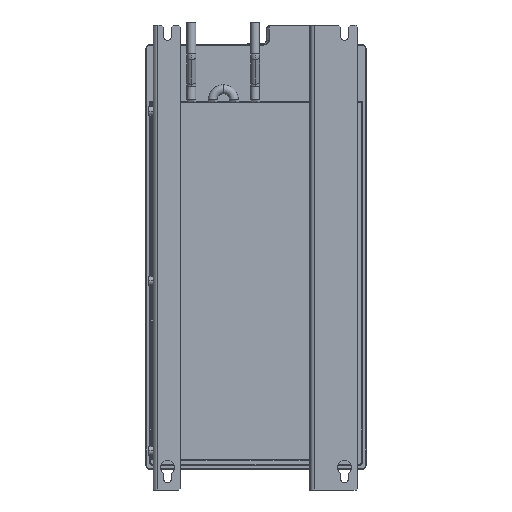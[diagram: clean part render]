
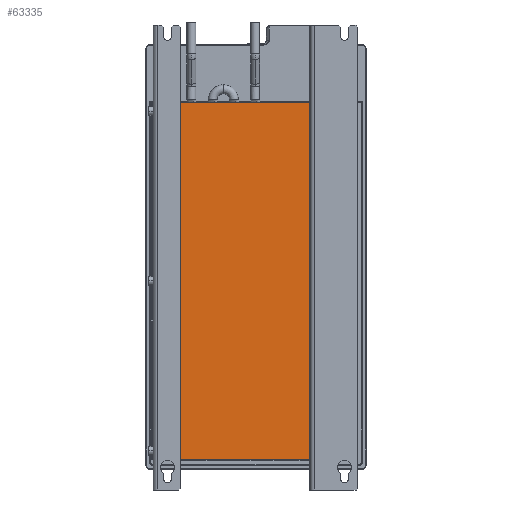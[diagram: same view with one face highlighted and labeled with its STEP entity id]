
A CAD part, front view. The second image highlights one B-rep face of the part: STEP entity #63335.
In plain terms, the highlighted planar face has unit normal (0, -1, 0).
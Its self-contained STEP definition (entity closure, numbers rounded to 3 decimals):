
#2519 = VECTOR ( 'NONE', #80175, 1000. ) ;
#7236 = DIRECTION ( 'NONE',  ( -1., 0., 0. ) ) ;
#7941 = ORIENTED_EDGE ( 'NONE', *, *, #51498, .T. ) ;
#8241 = DIRECTION ( 'NONE',  ( 0., 0., -1. ) ) ;
#9520 = LINE ( 'NONE', #24775, #42649 ) ;
#15249 = EDGE_CURVE ( 'NONE', #98291, #69958, #9520, .T. ) ;
#19193 = AXIS2_PLACEMENT_3D ( 'NONE', #40856, #41373, #8241 ) ;
#22348 = EDGE_LOOP ( 'NONE', ( #61602, #7941, #91270, #81796 ) ) ;
#24775 = CARTESIAN_POINT ( 'NONE',  ( 87.5, 1., 405.9 ) ) ;
#26155 = VERTEX_POINT ( 'NONE', #95851 ) ;
#33675 = EDGE_CURVE ( 'NONE', #69958, #52543, #62559, .T. ) ;
#40247 = VECTOR ( 'NONE', #68044, 1000. ) ;
#40856 = CARTESIAN_POINT ( 'NONE',  ( 89.5, 1., 590.321 ) ) ;
#41373 = DIRECTION ( 'NONE',  ( 0., -1., 0. ) ) ;
#42649 = VECTOR ( 'NONE', #56936, 1000. ) ;
#51498 = EDGE_CURVE ( 'NONE', #26155, #52543, #92852, .T. ) ;
#52543 = VERTEX_POINT ( 'NONE', #77740 ) ;
#55356 = CARTESIAN_POINT ( 'NONE',  ( 89.5, 1., 403. ) ) ;
#56936 = DIRECTION ( 'NONE',  ( 0., 0., -1. ) ) ;
#61602 = ORIENTED_EDGE ( 'NONE', *, *, #80234, .F. ) ;
#62559 = LINE ( 'NONE', #79437, #63152 ) ;
#63152 = VECTOR ( 'NONE', #7236, 1000. ) ;
#63335 = ADVANCED_FACE ( 'NONE', ( #65649 ), #71991, .T. ) ;
#65649 = FACE_OUTER_BOUND ( 'NONE', #22348, .T. ) ;
#66983 = CARTESIAN_POINT ( 'NONE',  ( -87.5, 1., 405.9 ) ) ;
#68044 = DIRECTION ( 'NONE',  ( 0., 0., -1. ) ) ;
#69958 = VERTEX_POINT ( 'NONE', #75251 ) ;
#71991 = PLANE ( 'NONE',  #19193 ) ;
#75251 = CARTESIAN_POINT ( 'NONE',  ( 87.5, 1., 0. ) ) ;
#77740 = CARTESIAN_POINT ( 'NONE',  ( -87.5, 1., 0. ) ) ;
#79437 = CARTESIAN_POINT ( 'NONE',  ( 89.5, 1., 0. ) ) ;
#80175 = DIRECTION ( 'NONE',  ( 1., 0., 0. ) ) ;
#80234 = EDGE_CURVE ( 'NONE', #26155, #98291, #81747, .T. ) ;
#81747 = LINE ( 'NONE', #55356, #2519 ) ;
#81796 = ORIENTED_EDGE ( 'NONE', *, *, #15249, .F. ) ;
#91270 = ORIENTED_EDGE ( 'NONE', *, *, #33675, .F. ) ;
#92852 = LINE ( 'NONE', #66983, #40247 ) ;
#94814 = CARTESIAN_POINT ( 'NONE',  ( 87.5, 1., 403. ) ) ;
#95851 = CARTESIAN_POINT ( 'NONE',  ( -87.5, 1., 403. ) ) ;
#98291 = VERTEX_POINT ( 'NONE', #94814 ) ;
